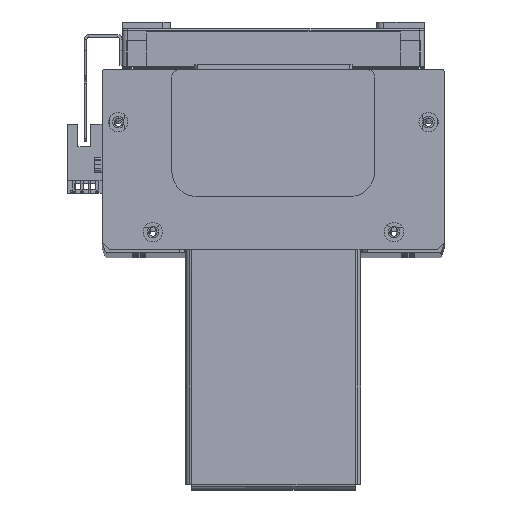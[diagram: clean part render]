
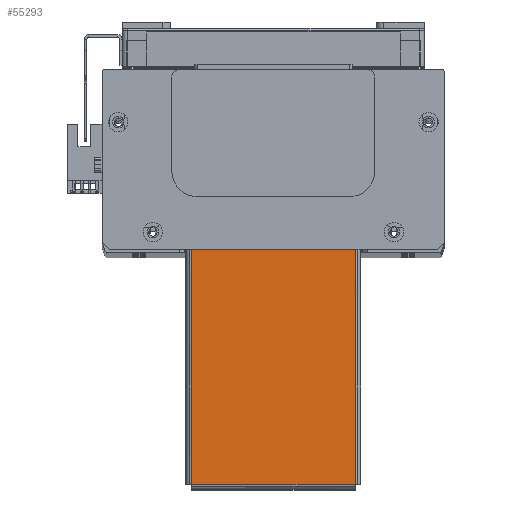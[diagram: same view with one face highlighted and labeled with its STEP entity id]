
A CAD part, top view. The second image highlights one B-rep face of the part: STEP entity #55293.
In plain terms, the highlighted planar face has unit normal (0, 0, 1) as drawn and (0, -1, 0) by its records, which use the part's own axes.
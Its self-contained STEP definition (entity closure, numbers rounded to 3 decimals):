
#1921 = EDGE_CURVE ( 'NONE', #53227, #55011, #40371, .T. ) ;
#1944 = EDGE_CURVE ( 'NONE', #55002, #55011, #40453, .T. ) ;
#1977 = EDGE_CURVE ( 'NONE', #55002, #53259, #40478, .T. ) ;
#1983 = EDGE_CURVE ( 'NONE', #53259, #53227, #40542, .T. ) ;
#4276 = DIRECTION ( 'NONE',  ( 1., 0., 0. ) ) ;
#4292 = CARTESIAN_POINT ( 'NONE',  ( -94.793, -1.5, -32.263 ) ) ;
#4371 = CARTESIAN_POINT ( 'NONE',  ( -2., -1.5, 34.5 ) ) ;
#4390 = DIRECTION ( 'NONE',  ( 0., 0., -1. ) ) ;
#4440 = CARTESIAN_POINT ( 'NONE',  ( -94.763, -1.5, 32.293 ) ) ;
#4442 = DIRECTION ( 'NONE',  ( 0., 0., -1. ) ) ;
#4458 = DIRECTION ( 'NONE',  ( -1., 0., 0. ) ) ;
#4467 = CARTESIAN_POINT ( 'NONE',  ( 94.793, -1.5, 32.263 ) ) ;
#11944 = CARTESIAN_POINT ( 'NONE',  ( -94.763, -1.5, -32.263 ) ) ;
#11973 = CARTESIAN_POINT ( 'NONE',  ( -94.763, -1.5, 32.263 ) ) ;
#14488 = AXIS2_PLACEMENT_3D ( 'NONE', #22132, #22151, #22155 ) ;
#20134 = FACE_OUTER_BOUND ( 'NONE', #61298, .T. ) ;
#22132 = CARTESIAN_POINT ( 'NONE',  ( 0., -1.5, 0. ) ) ;
#22151 = DIRECTION ( 'NONE',  ( 0., 1., 0. ) ) ;
#22155 = DIRECTION ( 'NONE',  ( 0., 0., 1. ) ) ;
#22194 = PLANE ( 'NONE',  #14488 ) ;
#35714 = ORIENTED_EDGE ( 'NONE', *, *, #1977, .T. ) ;
#35730 = ORIENTED_EDGE ( 'NONE', *, *, #1921, .T. ) ;
#35738 = ORIENTED_EDGE ( 'NONE', *, *, #1983, .T. ) ;
#35747 = ORIENTED_EDGE ( 'NONE', *, *, #1944, .F. ) ;
#40359 = VECTOR ( 'NONE', #4276, 1000. ) ;
#40371 = LINE ( 'NONE', #4292, #40359 ) ;
#40418 = VECTOR ( 'NONE', #4458, 1000. ) ;
#40429 = VECTOR ( 'NONE', #4390, 1000. ) ;
#40453 = LINE ( 'NONE', #4371, #40429 ) ;
#40478 = LINE ( 'NONE', #4467, #40418 ) ;
#40515 = VECTOR ( 'NONE', #4442, 1000. ) ;
#40542 = LINE ( 'NONE', #4440, #40515 ) ;
#41418 = CARTESIAN_POINT ( 'NONE',  ( -2., -1.5, 32.263 ) ) ;
#41498 = CARTESIAN_POINT ( 'NONE',  ( -2., -1.5, -32.263 ) ) ;
#53227 = VERTEX_POINT ( 'NONE', #11944 ) ;
#53259 = VERTEX_POINT ( 'NONE', #11973 ) ;
#55002 = VERTEX_POINT ( 'NONE', #41418 ) ;
#55011 = VERTEX_POINT ( 'NONE', #41498 ) ;
#55293 = ADVANCED_FACE ( 'NONE', ( #20134 ), #22194, .F. ) ;
#61298 = EDGE_LOOP ( 'NONE', ( #35730, #35747, #35714, #35738 ) ) ;
